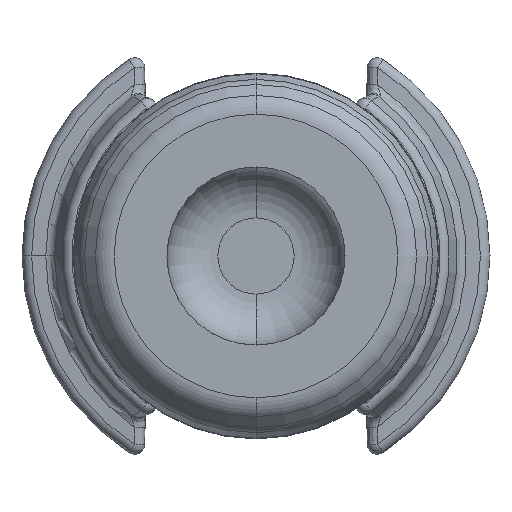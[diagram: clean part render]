
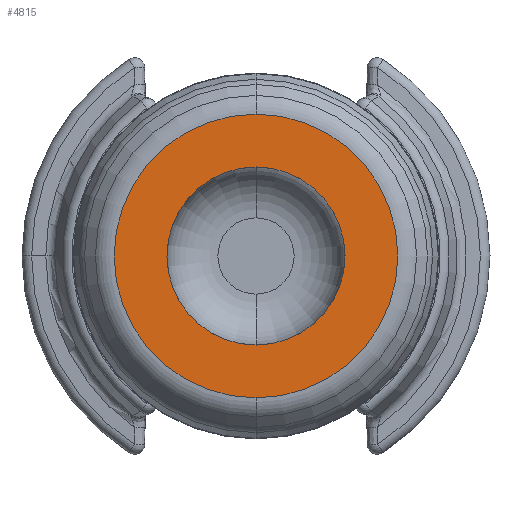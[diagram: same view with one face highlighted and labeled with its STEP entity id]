
A CAD part, front view. The second image highlights one B-rep face of the part: STEP entity #4815.
In plain terms, the highlighted planar face has unit normal (0, -1, 0).
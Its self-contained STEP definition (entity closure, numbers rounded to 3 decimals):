
#20 = CARTESIAN_POINT ( 'NONE',  ( 0., -4.25, 0. ) ) ;
#180 = EDGE_CURVE ( 'NONE', #6235, #7623, #1021, .T. ) ;
#305 = DIRECTION ( 'NONE',  ( 0., 0., 1. ) ) ;
#394 = CIRCLE ( 'NONE', #2537, 1.75 ) ;
#583 = CARTESIAN_POINT ( 'NONE',  ( 0., -4.25, 0. ) ) ;
#617 = VERTEX_POINT ( 'NONE', #7999 ) ;
#1005 = ORIENTED_EDGE ( 'NONE', *, *, #4040, .T. ) ;
#1021 = CIRCLE ( 'NONE', #6363, 2.788 ) ;
#1031 = CIRCLE ( 'NONE', #7253, 2.788 ) ;
#1199 = AXIS2_PLACEMENT_3D ( 'NONE', #7431, #3815, #6582 ) ;
#1456 = EDGE_CURVE ( 'NONE', #9359, #617, #394, .T. ) ;
#1631 = CARTESIAN_POINT ( 'NONE',  ( 0., -4.25, 2.788 ) ) ;
#2498 = ORIENTED_EDGE ( 'NONE', *, *, #180, .T. ) ;
#2537 = AXIS2_PLACEMENT_3D ( 'NONE', #7602, #3319, #305 ) ;
#2636 = ORIENTED_EDGE ( 'NONE', *, *, #8150, .T. ) ;
#2814 = CARTESIAN_POINT ( 'NONE',  ( 0., -4.25, -2.788 ) ) ;
#2935 = DIRECTION ( 'NONE',  ( 0., -1., 0. ) ) ;
#2953 = FACE_BOUND ( 'NONE', #7794, .T. ) ;
#3319 = DIRECTION ( 'NONE',  ( 0., 1., 0. ) ) ;
#3404 = DIRECTION ( 'NONE',  ( 0., 1., 0. ) ) ;
#3504 = DIRECTION ( 'NONE',  ( 0., 0., 1. ) ) ;
#3815 = DIRECTION ( 'NONE',  ( 0., 1., 0. ) ) ;
#4040 = EDGE_CURVE ( 'NONE', #617, #9359, #9241, .T. ) ;
#4523 = PLANE ( 'NONE',  #1199 ) ;
#4815 = ADVANCED_FACE ( 'NONE', ( #2953, #8132 ), #4523, .F. ) ;
#5747 = EDGE_LOOP ( 'NONE', ( #2498, #2636 ) ) ;
#5843 = DIRECTION ( 'NONE',  ( 0., 0., 1. ) ) ;
#5926 = AXIS2_PLACEMENT_3D ( 'NONE', #583, #3404, #3504 ) ;
#6235 = VERTEX_POINT ( 'NONE', #1631 ) ;
#6363 = AXIS2_PLACEMENT_3D ( 'NONE', #20, #2935, #5843 ) ;
#6582 = DIRECTION ( 'NONE',  ( 0., 0., 1. ) ) ;
#6653 = ORIENTED_EDGE ( 'NONE', *, *, #1456, .T. ) ;
#7253 = AXIS2_PLACEMENT_3D ( 'NONE', #7484, #8138, #8326 ) ;
#7431 = CARTESIAN_POINT ( 'NONE',  ( 5., -4.25, -4.6 ) ) ;
#7484 = CARTESIAN_POINT ( 'NONE',  ( 0., -4.25, 0. ) ) ;
#7602 = CARTESIAN_POINT ( 'NONE',  ( 0., -4.25, 0. ) ) ;
#7623 = VERTEX_POINT ( 'NONE', #2814 ) ;
#7794 = EDGE_LOOP ( 'NONE', ( #6653, #1005 ) ) ;
#7999 = CARTESIAN_POINT ( 'NONE',  ( 0., -4.25, -1.75 ) ) ;
#8132 = FACE_OUTER_BOUND ( 'NONE', #5747, .T. ) ;
#8138 = DIRECTION ( 'NONE',  ( 0., -1., 0. ) ) ;
#8150 = EDGE_CURVE ( 'NONE', #7623, #6235, #1031, .T. ) ;
#8326 = DIRECTION ( 'NONE',  ( 0., 0., 1. ) ) ;
#8562 = CARTESIAN_POINT ( 'NONE',  ( 0., -4.25, 1.75 ) ) ;
#9241 = CIRCLE ( 'NONE', #5926, 1.75 ) ;
#9359 = VERTEX_POINT ( 'NONE', #8562 ) ;
